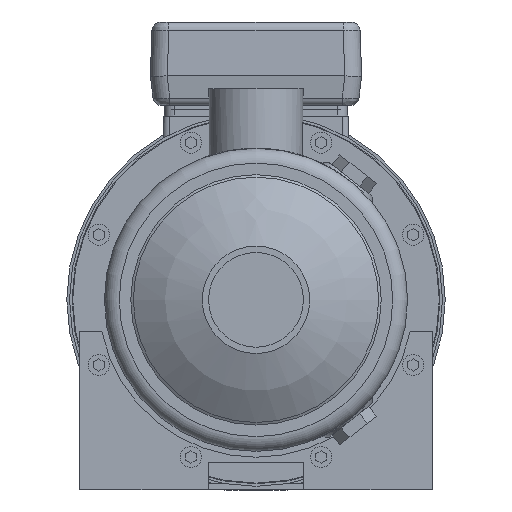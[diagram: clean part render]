
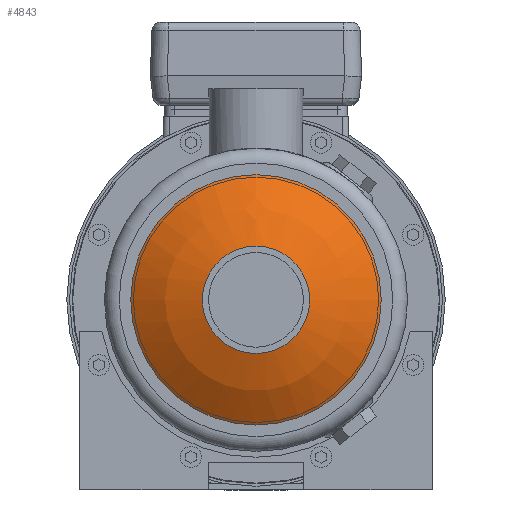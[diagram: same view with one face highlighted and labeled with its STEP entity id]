
A CAD part, left-side view. The second image highlights one B-rep face of the part: STEP entity #4843.
In plain terms, the highlighted spherical face has radius 100 mm.
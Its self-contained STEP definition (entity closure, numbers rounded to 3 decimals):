
#87=SPHERICAL_SURFACE('',#6501,100.);
#1102=ORIENTED_EDGE('',*,*,#2443,.T.);
#1103=ORIENTED_EDGE('',*,*,#2442,.F.);
#2442=EDGE_CURVE('',#3117,#3117,#3579,.T.);
#2443=EDGE_CURVE('',#3118,#3118,#3580,.T.);
#3117=VERTEX_POINT('',#8701);
#3118=VERTEX_POINT('',#8704);
#3579=CIRCLE('',#6500,25.4);
#3580=CIRCLE('',#6502,59.25);
#3802=EDGE_LOOP('',(#1102));
#3803=EDGE_LOOP('',(#1103));
#4240=FACE_BOUND('',#3802,.T.);
#4241=FACE_BOUND('',#3803,.T.);
#4843=ADVANCED_FACE('',(#4240,#4241),#87,.T.);
#6500=AXIS2_PLACEMENT_3D('',#8700,#7103,#7104);
#6501=AXIS2_PLACEMENT_3D('',#8702,#7105,#7106);
#6502=AXIS2_PLACEMENT_3D('',#8703,#7107,#7108);
#7103=DIRECTION('',(-1.,0.,0.));
#7104=DIRECTION('',(0.,0.,1.));
#7105=DIRECTION('',(-1.,0.,0.));
#7106=DIRECTION('',(0.,0.,1.));
#7107=DIRECTION('',(-1.,0.,0.));
#7108=DIRECTION('',(0.,0.,1.));
#8700=CARTESIAN_POINT('',(-112.02,0.,0.));
#8701=CARTESIAN_POINT('',(-112.02,0.,25.4));
#8702=CARTESIAN_POINT('',(-15.3,0.,0.));
#8703=CARTESIAN_POINT('',(-95.857,0.,0.));
#8704=CARTESIAN_POINT('',(-95.857,0.,59.25));
